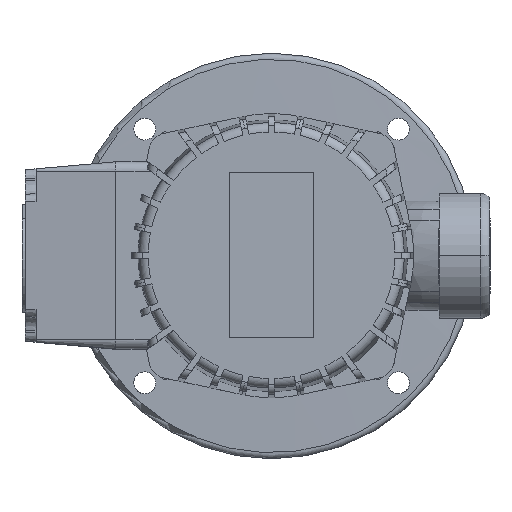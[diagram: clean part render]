
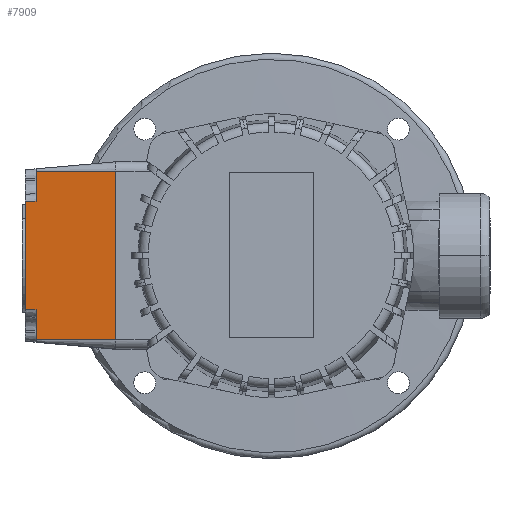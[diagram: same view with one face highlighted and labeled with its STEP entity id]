
A CAD part, top view. The second image highlights one B-rep face of the part: STEP entity #7909.
In plain terms, the highlighted planar face has unit normal (-0.087, 0, 0.996).
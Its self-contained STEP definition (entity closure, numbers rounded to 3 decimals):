
#3625=EDGE_CURVE('',#6189,#8709,#10387,.T.);
#3937=EDGE_CURVE('',#6387,#7591,#10732,.T.);
#4493=EDGE_CURVE('',#10029,#6189,#11337,.T.);
#4675=VERTEX_POINT('',#11534);
#4883=EDGE_CURVE('',#8709,#6387,#11758,.T.);
#5503=EDGE_CURVE('',#7591,#4675,#12453,.T.);
#5813=EDGE_CURVE('',#5817,#7559,#12796,.T.);
#5817=VERTEX_POINT('',#12801);
#6189=VERTEX_POINT('',#13206);
#6387=VERTEX_POINT('',#13425);
#7559=VERTEX_POINT('',#14711);
#7581=EDGE_CURVE('',#5817,#10029,#14734,.T.);
#7591=VERTEX_POINT('',#14744);
#7909=ADVANCED_FACE('',(#15100),#15101,.T.);
#8129=EDGE_CURVE('',#4675,#7559,#15342,.T.);
#8709=VERTEX_POINT('',#15987);
#10029=VERTEX_POINT('',#17420);
#10387=LINE('',#18119,#18120);
#10732=LINE('',#18943,#18944);
#11337=LINE('',#20341,#20342);
#11534=CARTESIAN_POINT('',(-75.5,-17.353,60.269));
#11758=B_SPLINE_CURVE_WITH_KNOTS('',2,(#21271,#21272,#21273),.UNSPECIFIED.,.F.,.F.,(3,3),(0.0,3.513),.UNSPECIFIED.);
#12453=B_SPLINE_CURVE_WITH_KNOTS('',2,(#22841,#22842,#22843),.UNSPECIFIED.,.F.,.F.,(3,3),(0.0,3.513),.UNSPECIFIED.);
#12796=LINE('',#23726,#23727);
#12801=CARTESIAN_POINT('',(-50.0,-27.0,62.5));
#13206=CARTESIAN_POINT('',(-75.5,27.0,60.269));
#13425=CARTESIAN_POINT('',(-79.0,17.326,59.963));
#14711=CARTESIAN_POINT('',(-75.5,-27.0,60.269));
#14734=LINE('',#28127,#28128);
#14744=CARTESIAN_POINT('',(-79.0,-17.326,59.963));
#15100=FACE_OUTER_BOUND('',#28847,.T.);
#15101=PLANE('',#28848);
#15342=LINE('',#29466,#29467);
#15987=CARTESIAN_POINT('',(-75.5,17.353,60.269));
#17420=CARTESIAN_POINT('',(-50.0,27.0,62.5));
#18119=CARTESIAN_POINT('',(-75.5,25.811,60.269));
#18120=VECTOR('',#34474,1.0);
#18943=CARTESIAN_POINT('',(-79.0,-27.0,59.963));
#18944=VECTOR('',#34860,1.0);
#20341=CARTESIAN_POINT('',(-50.0,27.0,62.5));
#20342=VECTOR('',#35455,1.0);
#21271=CARTESIAN_POINT('',(-75.5,17.353,60.269));
#21272=CARTESIAN_POINT('',(-77.297,17.339,60.112));
#21273=CARTESIAN_POINT('',(-79.0,17.326,59.963));
#22841=CARTESIAN_POINT('',(-79.0,-17.326,59.963));
#22842=CARTESIAN_POINT('',(-77.297,-17.339,60.112));
#22843=CARTESIAN_POINT('',(-75.5,-17.353,60.269));
#23726=CARTESIAN_POINT('',(-50.0,-27.0,62.5));
#23727=VECTOR('',#37110,1.0);
#28127=CARTESIAN_POINT('',(-50.0,-27.0,62.5));
#28128=VECTOR('',#39253,1.0);
#28847=EDGE_LOOP('',(#39842,#39843,#39844,#39845,#39846,#39847,#39848,#39849));
#28848=AXIS2_PLACEMENT_3D('',#39850,#39851,#39852);
#29466=CARTESIAN_POINT('',(-75.5,1.189,60.269));
#29467=VECTOR('',#40088,1.0);
#34474=DIRECTION('',(0.0,-1.0,0.0));
#34860=DIRECTION('',(0.0,-1.0,0.0));
#35455=DIRECTION('',(-0.996,0.0,-0.087));
#37110=DIRECTION('',(-0.996,0.,-0.087));
#39253=DIRECTION('',(0.0,1.0,0.0));
#39842=ORIENTED_EDGE('',*,*,#8129,.T.);
#39843=ORIENTED_EDGE('',*,*,#5813,.F.);
#39844=ORIENTED_EDGE('',*,*,#7581,.T.);
#39845=ORIENTED_EDGE('',*,*,#4493,.T.);
#39846=ORIENTED_EDGE('',*,*,#3625,.T.);
#39847=ORIENTED_EDGE('',*,*,#4883,.T.);
#39848=ORIENTED_EDGE('',*,*,#3937,.T.);
#39849=ORIENTED_EDGE('',*,*,#5503,.T.);
#39850=CARTESIAN_POINT('',(-50.0,27.0,62.5));
#39851=DIRECTION('',(-0.087,0.0,0.996));
#39852=DIRECTION('',(0.0,1.0,0.0));
#40088=DIRECTION('',(0.0,-1.0,0.0));
